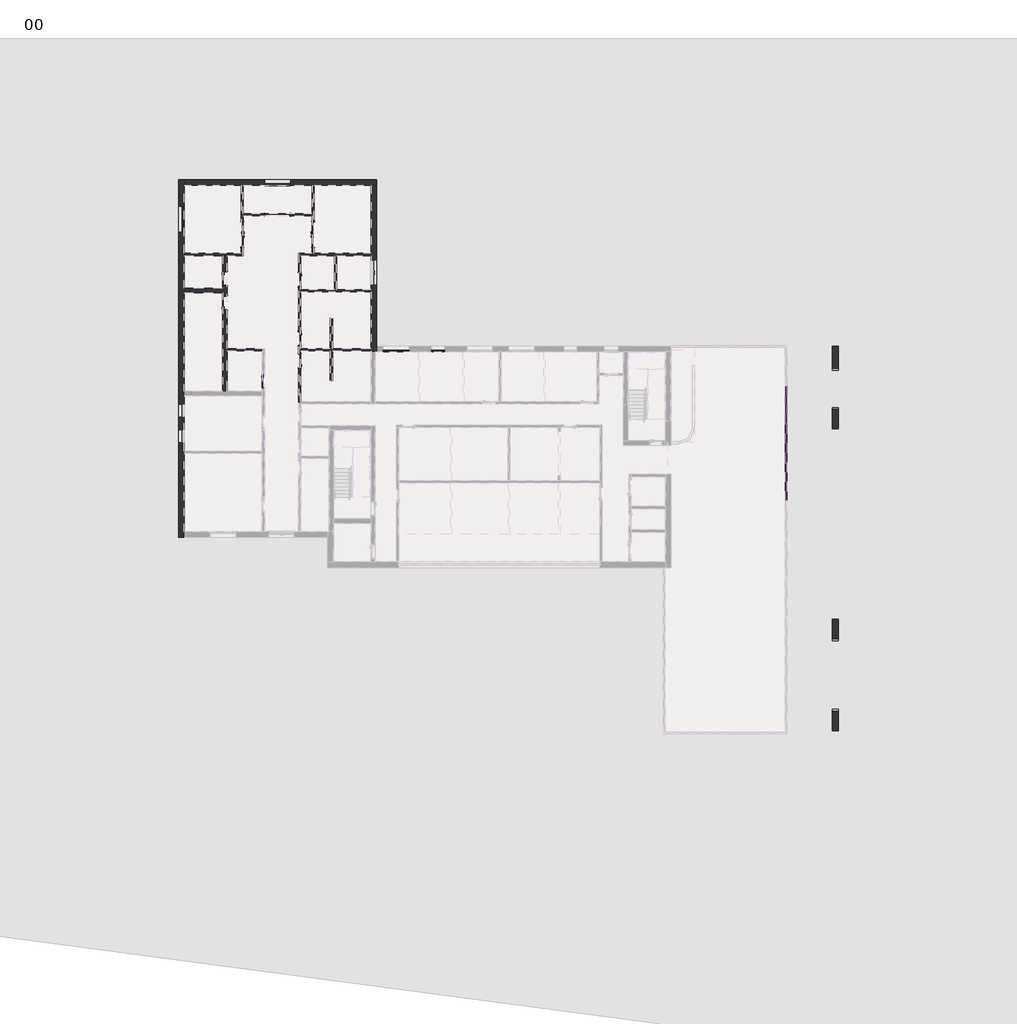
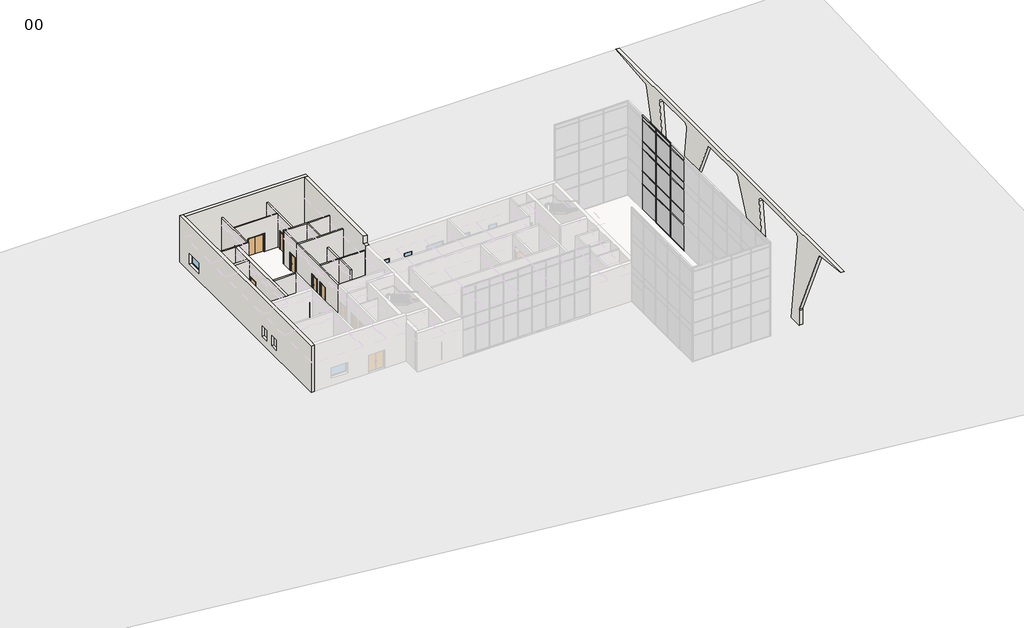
# One storey, part 6 of 11: 28 members, 19 walls, 18 plates, 10 doors, 3 windows.
"""IFC4 building model written with IfcOpenShell, lengths in millimetres."""

from ifc_helpers import new_model, si_unit, point, frame, frame_2d, origin, origin_with_axes, place, context, project, spatial, polyline, circle_curve, trimmed, segment, composite_curve, outline, extrude, faceted_brep, transform, mapped, element, save
from components import doors_concept_extdbl_1810x2110mm_68805f83, doors_concept_intdbl_1810x2110mm_1c066db9, doors_intdbl_3_1810x2110mm_64ebe9ef, doors_intdbl_3_1810x2110mm_1437e5d7, doors_intsgl_1_1010x2110mm_7920e6b8, doors_intsgl_1_1010x2110mm_12a6edaf, doors_intsgl_1_1010x2110mm_5517da8e, doors_intsgl_1_1010x2110mm_5eebe40c, rectangular_mullion_curtainwallmullion_rectangular_generic_8ae0e668, rectangular_mullion_curtainwallmullion_rectangular_generic_08fbcc14, rectangular_mullion_curtainwallmullion_rectangular_generic_5675a122, rectangular_mullion_curtainwallmullion_rectangular_generic_12ad56c0, rectangular_mullion_curtainwallmullion_rectangular_generic_bd817207, rectangular_mullion_curtainwallmullion_rectangular_generic_654ac675, rectangular_mullion_curtainwallmullion_rectangular_generic_c0600e94, rectangular_mullion_curtainwallmullion_rectangular_generic_c640f651, rectangular_mullion_curtainwallmullion_rectangular_generic_b2d53351, system_panel_curtainpanel_glazed_34fb785a, system_panel_curtainpanel_glazed_62d472f1, system_panel_curtainpanel_glazed_9c2ad216, system_panel_curtainpanel_solid_fc584997, system_panel_curtainpanel_solid_60141125, system_panel_curtainpanel_solid_5de49f81, windows_concept_plain_sgl_1810x1210mm_7f7241d7, windows_concept_plain_sgl_910x1210mm_ef0b7ad2

model = new_model("IFC4")

# Units and contexts
model_context = context("Model", 3, world=origin())
ifc_project = project(units=[si_unit("LENGTHUNIT", "METRE", prefix="MILLI")], contexts=[model_context])

# Site, building, storey
site = spatial("IfcSite", under=ifc_project)
building = spatial("IfcBuilding", under=site)
storey = spatial("IfcBuildingStorey", under=building, Name="00", Elevation=0.0)

# Doors
placement = place(None, origin())
doors_concept_extdbl_1810x2110mm_shape = doors_concept_extdbl_1810x2110mm_68805f83(model_context)
element("IfcDoor", 1, ObjectType="Doors_Concept_ExtDbl : 1810x2110mm", at=placement, inside=storey, context=model_context, shape_type="MappedRepresentation", body=[
    mapped(doors_concept_extdbl_1810x2110mm_shape, transform((418436.3206883, -369614.0026386, 0.0), x_axis=(-1.0, 0.0, 0.0), y_axis=(0.0, -1.0, 0.0), z_axis=(0.0, 0.0, 1.0))),
])
doors_concept_intdbl_1810x2110mm_shape = doors_concept_intdbl_1810x2110mm_1c066db9(model_context)
element("IfcDoor", 2, ObjectType="Doors_Concept_IntDbl : 1810x2110mm", at=placement, inside=storey, context=model_context, shape_type="MappedRepresentation", body=[
    mapped(doors_concept_intdbl_1810x2110mm_shape, transform((418436.3206883, -371890.0026386, 0.0), x_axis=(-1.0, 0.0, 0.0), y_axis=(0.0, -1.0, 0.0), z_axis=(0.0, 0.0, 1.0))),
])
doors_intdbl_3_1810x2110mm_shape = doors_intdbl_3_1810x2110mm_64ebe9ef(model_context)
doors_intdbl_3_1810x2110mm_2_shape = doors_intdbl_3_1810x2110mm_1437e5d7(model_context)
element("IfcDoor", 3, ObjectType="Doors_IntDbl_3 : 1810x2110mm", at=placement, inside=storey, context=model_context, shape_type="MappedRepresentation", body=[
    mapped(doors_intdbl_3_1810x2110mm_shape, transform((420937.3206883, -373289.5026386, 0.0), x_axis=(0.0, 1.0, 0.0), y_axis=(-1.0, 0.0, 0.0), z_axis=(0.0, 0.0, 1.0))),
    mapped(doors_intdbl_3_1810x2110mm_2_shape, transform((420937.3206883, -373289.5026386, 0.0), x_axis=(0.0, 1.0, 0.0), y_axis=(-1.0, 0.0, 0.0), z_axis=(0.0, 0.0, 1.0))),
])
element("IfcDoor", 4, ObjectType="Doors_IntDbl_3 : 1810x2110mm", at=placement, inside=storey, context=model_context, shape_type="MappedRepresentation", body=[
    mapped(doors_intdbl_3_1810x2110mm_shape, transform((415935.3206883, -373289.5026386, 0.0), x_axis=(0.0, -1.0, 0.0), y_axis=(1.0, 0.0, 0.0), z_axis=(0.0, 0.0, 1.0))),
    mapped(doors_intdbl_3_1810x2110mm_2_shape, transform((415935.3206883, -373289.5026386, 0.0), x_axis=(0.0, -1.0, 0.0), y_axis=(1.0, 0.0, 0.0), z_axis=(0.0, 0.0, 1.0))),
])
doors_intsgl_1_1010x2110mm_shape = doors_intsgl_1_1010x2110mm_7920e6b8(model_context)
element("IfcDoor", 5, ObjectType="Doors_IntSgl_1 : 1010x2110mm", at=placement, inside=storey, context=model_context, shape_type="MappedRepresentation", body=[
    mapped(doors_intsgl_1_1010x2110mm_shape, transform((417435.3206883, -383609.0026386, 0.0), x_axis=(0.0, -1.0, 0.0), y_axis=(1.0, 0.0, 0.0), z_axis=(0.0, 0.0, 1.0))),
])
element("IfcDoor", 6, ObjectType="Doors_IntSgl_1 : 1010x2110mm", at=placement, inside=storey, context=model_context, shape_type="MappedRepresentation", body=[
    mapped(doors_intsgl_1_1010x2110mm_shape, transform((419987.3206883, -382175.0026386, 0.0), x_axis=(0.0, 1.0, 0.0), y_axis=(-1.0, 0.0, 0.0), z_axis=(0.0, 0.0, 1.0))),
])
doors_intsgl_1_1010x2110mm_2_shape = doors_intsgl_1_1010x2110mm_12a6edaf(model_context)
element("IfcDoor", 7, ObjectType="Doors_IntSgl_1 : 1010x2110mm", at=placement, inside=storey, context=model_context, shape_type="MappedRepresentation", body=[
    mapped(doors_intsgl_1_1010x2110mm_2_shape, transform((419987.3206883, -380615.0026386, 0.0), x_axis=(0.0, -1.0, 0.0), y_axis=(1.0, 0.0, 0.0), z_axis=(0.0, 0.0, 1.0))),
])
element("IfcDoor", 8, ObjectType="Doors_IntSgl_1 : 1010x2110mm", at=placement, inside=storey, context=model_context, shape_type="MappedRepresentation", body=[
    mapped(doors_intsgl_1_1010x2110mm_2_shape, transform((419987.3206883, -376459.0026386, 0.0), x_axis=(0.0, -1.0, 0.0), y_axis=(1.0, 0.0, 0.0), z_axis=(0.0, 0.0, 1.0))),
])
doors_intsgl_1_1010x2110mm_3_shape = doors_intsgl_1_1010x2110mm_5517da8e(model_context)
element("IfcDoor", 9, ObjectType="Doors_IntSgl_1 : 1010x2110mm", at=placement, inside=storey, context=model_context, shape_type="MappedRepresentation", body=[
    mapped(doors_intsgl_1_1010x2110mm_3_shape, transform((414735.3206883, -378099.0026386, 0.0), x_axis=(0.0, 1.0, 0.0), y_axis=(-1.0, 0.0, 0.0), z_axis=(0.0, 0.0, 1.0))),
])
doors_intsgl_1_1010x2110mm_4_shape = doors_intsgl_1_1010x2110mm_5eebe40c(model_context)
element("IfcDoor", 10, ObjectType="Doors_IntSgl_1 : 1010x2110mm", at=placement, inside=storey, context=model_context, shape_type="MappedRepresentation", body=[
    mapped(doors_intsgl_1_1010x2110mm_4_shape, transform((414735.3206883, -376379.0026386, 0.0), x_axis=(0.0, -1.0, 0.0), y_axis=(1.0, 0.0, 0.0), z_axis=(0.0, 0.0, 1.0))),
])

# Members
rectangular_mullion_curtainwallmullion_rectangular_generic_shape = rectangular_mullion_curtainwallmullion_rectangular_generic_8ae0e668(model_context)
element("IfcMember", 11, ObjectType="Rectangular Mullion : CurtainWallMullion_Rectangular_Generic", at=placement, inside=storey, context=model_context, shape_type="MappedRepresentation", body=[
    mapped(rectangular_mullion_curtainwallmullion_rectangular_generic_shape, transform((454246.3206883, -386624.2026388, 10486.7), x_axis=(0.0, -1.0, 0.0), y_axis=(-1.0, 0.0, 0.0), z_axis=(0.0, 0.0, -1.0))),
])
element("IfcMember", 12, ObjectType="Rectangular Mullion : CurtainWallMullion_Rectangular_Generic", at=placement, inside=storey, context=model_context, shape_type="MappedRepresentation", body=[
    mapped(rectangular_mullion_curtainwallmullion_rectangular_generic_shape, transform((454246.3206883, -389338.8026387, 10486.7), x_axis=(0.0, -1.0, 0.0), y_axis=(-1.0, 0.0, 0.0), z_axis=(0.0, 0.0, -1.0))),
])
rectangular_mullion_curtainwallmullion_rectangular_generic_2_shape = rectangular_mullion_curtainwallmullion_rectangular_generic_08fbcc14(model_context)
element("IfcMember", 13, ObjectType="Rectangular Mullion : CurtainWallMullion_Rectangular_Generic", at=placement, inside=storey, context=model_context, shape_type="MappedRepresentation", body=[
    mapped(rectangular_mullion_curtainwallmullion_rectangular_generic_2_shape, transform((454246.3206883, -386624.2026388, 8000.0), x_axis=(0.0, -1.0, 0.0), y_axis=(-1.0, 0.0, 0.0), z_axis=(0.0, 0.0, -1.0))),
])
element("IfcMember", 14, ObjectType="Rectangular Mullion : CurtainWallMullion_Rectangular_Generic", at=placement, inside=storey, context=model_context, shape_type="MappedRepresentation", body=[
    mapped(rectangular_mullion_curtainwallmullion_rectangular_generic_2_shape, transform((454246.3206883, -389338.8026387, 8000.0), x_axis=(0.0, -1.0, 0.0), y_axis=(-1.0, 0.0, 0.0), z_axis=(0.0, 0.0, -1.0))),
])
rectangular_mullion_curtainwallmullion_rectangular_generic_3_shape = rectangular_mullion_curtainwallmullion_rectangular_generic_5675a122(model_context)
element("IfcMember", 15, ObjectType="Rectangular Mullion : CurtainWallMullion_Rectangular_Generic", at=placement, inside=storey, context=model_context, shape_type="MappedRepresentation", body=[
    mapped(rectangular_mullion_curtainwallmullion_rectangular_generic_3_shape, transform((454246.3206883, -386624.2026388, 50.0), x_axis=(0.0, -1.0, 0.0), y_axis=(-1.0, 0.0, 0.0), z_axis=(0.0, 0.0, -1.0))),
])
element("IfcMember", 16, ObjectType="Rectangular Mullion : CurtainWallMullion_Rectangular_Generic", at=placement, inside=storey, context=model_context, shape_type="MappedRepresentation", body=[
    mapped(rectangular_mullion_curtainwallmullion_rectangular_generic_3_shape, transform((454246.3206883, -389338.8026387, 50.0), x_axis=(0.0, -1.0, 0.0), y_axis=(-1.0, 0.0, 0.0), z_axis=(0.0, 0.0, -1.0))),
])
rectangular_mullion_curtainwallmullion_rectangular_generic_4_shape = rectangular_mullion_curtainwallmullion_rectangular_generic_12ad56c0(model_context)
element("IfcMember", 17, ObjectType="Rectangular Mullion : CurtainWallMullion_Rectangular_Generic", at=placement, inside=storey, context=model_context, shape_type="MappedRepresentation", body=[
    mapped(rectangular_mullion_curtainwallmullion_rectangular_generic_4_shape, transform((454246.3206883, -386624.2026388, 11000.0), x_axis=(0.0, 0.0, 1.0), y_axis=(-1.0, 0.0, 0.0), z_axis=(0.0, -1.0, 0.0))),
])
element("IfcMember", 18, ObjectType="Rectangular Mullion : CurtainWallMullion_Rectangular_Generic", at=placement, inside=storey, context=model_context, shape_type="MappedRepresentation", body=[
    mapped(rectangular_mullion_curtainwallmullion_rectangular_generic_4_shape, transform((454246.3206883, -389338.8026387, 11000.0), x_axis=(0.0, 0.0, 1.0), y_axis=(-1.0, 0.0, 0.0), z_axis=(0.0, -1.0, 0.0))),
])
element("IfcMember", 19, ObjectType="Rectangular Mullion : CurtainWallMullion_Rectangular_Generic", at=placement, inside=storey, context=model_context, shape_type="MappedRepresentation", body=[
    mapped(rectangular_mullion_curtainwallmullion_rectangular_generic_4_shape, transform((454246.3206883, -386624.2026388, 0.0), x_axis=(0.0, 0.0, -1.0), y_axis=(-1.0, 0.0, 0.0), z_axis=(0.0, 1.0, 0.0))),
])
element("IfcMember", 20, ObjectType="Rectangular Mullion : CurtainWallMullion_Rectangular_Generic", at=placement, inside=storey, context=model_context, shape_type="MappedRepresentation", body=[
    mapped(rectangular_mullion_curtainwallmullion_rectangular_generic_4_shape, transform((454246.3206883, -389338.8026387, 0.0), x_axis=(0.0, 0.0, -1.0), y_axis=(-1.0, 0.0, 0.0), z_axis=(0.0, 1.0, 0.0))),
])
rectangular_mullion_curtainwallmullion_rectangular_generic_5_shape = rectangular_mullion_curtainwallmullion_rectangular_generic_bd817207(model_context)
element("IfcMember", 21, ObjectType="Rectangular Mullion : CurtainWallMullion_Rectangular_Generic", at=placement, inside=storey, context=model_context, shape_type="MappedRepresentation", body=[
    mapped(rectangular_mullion_curtainwallmullion_rectangular_generic_5_shape, transform((454246.3206883, -386599.2026388, 4500.0), x_axis=(0.0, 0.0, 1.0), y_axis=(-1.0, 0.0, 0.0), z_axis=(0.0, -1.0, 0.0))),
])
element("IfcMember", 22, ObjectType="Rectangular Mullion : CurtainWallMullion_Rectangular_Generic", at=placement, inside=storey, context=model_context, shape_type="MappedRepresentation", body=[
    mapped(rectangular_mullion_curtainwallmullion_rectangular_generic_5_shape, transform((454246.3206883, -389313.8026387, 4500.0), x_axis=(0.0, 0.0, 1.0), y_axis=(-1.0, 0.0, 0.0), z_axis=(0.0, -1.0, 0.0))),
])
element("IfcMember", 23, ObjectType="Rectangular Mullion : CurtainWallMullion_Rectangular_Generic", at=placement, inside=storey, context=model_context, shape_type="MappedRepresentation", body=[
    mapped(rectangular_mullion_curtainwallmullion_rectangular_generic_5_shape, transform((454246.3206883, -386599.2026388, 7100.0), x_axis=(0.0, 0.0, 1.0), y_axis=(-1.0, 0.0, 0.0), z_axis=(0.0, -1.0, 0.0))),
])
element("IfcMember", 24, ObjectType="Rectangular Mullion : CurtainWallMullion_Rectangular_Generic", at=placement, inside=storey, context=model_context, shape_type="MappedRepresentation", body=[
    mapped(rectangular_mullion_curtainwallmullion_rectangular_generic_5_shape, transform((454246.3206883, -389313.8026387, 7100.0), x_axis=(0.0, 0.0, 1.0), y_axis=(-1.0, 0.0, 0.0), z_axis=(0.0, -1.0, 0.0))),
])
element("IfcMember", 25, ObjectType="Rectangular Mullion : CurtainWallMullion_Rectangular_Generic", at=placement, inside=storey, context=model_context, shape_type="MappedRepresentation", body=[
    mapped(rectangular_mullion_curtainwallmullion_rectangular_generic_5_shape, transform((454246.3206883, -386599.2026388, 10486.7), x_axis=(0.0, 0.0, 1.0), y_axis=(-1.0, 0.0, 0.0), z_axis=(0.0, -1.0, 0.0))),
])
element("IfcMember", 26, ObjectType="Rectangular Mullion : CurtainWallMullion_Rectangular_Generic", at=placement, inside=storey, context=model_context, shape_type="MappedRepresentation", body=[
    mapped(rectangular_mullion_curtainwallmullion_rectangular_generic_5_shape, transform((454246.3206883, -389313.8026387, 10486.7), x_axis=(0.0, 0.0, 1.0), y_axis=(-1.0, 0.0, 0.0), z_axis=(0.0, -1.0, 0.0))),
])
element("IfcMember", 27, ObjectType="Rectangular Mullion : CurtainWallMullion_Rectangular_Generic", at=placement, inside=storey, context=model_context, shape_type="MappedRepresentation", body=[
    mapped(rectangular_mullion_curtainwallmullion_rectangular_generic_5_shape, transform((454246.3206883, -386599.2026388, 8000.0), x_axis=(0.0, 0.0, 1.0), y_axis=(-1.0, 0.0, 0.0), z_axis=(0.0, -1.0, 0.0))),
])
element("IfcMember", 28, ObjectType="Rectangular Mullion : CurtainWallMullion_Rectangular_Generic", at=placement, inside=storey, context=model_context, shape_type="MappedRepresentation", body=[
    mapped(rectangular_mullion_curtainwallmullion_rectangular_generic_5_shape, transform((454246.3206883, -389313.8026387, 8000.0), x_axis=(0.0, 0.0, 1.0), y_axis=(-1.0, 0.0, 0.0), z_axis=(0.0, -1.0, 0.0))),
])
element("IfcMember", 29, ObjectType="Rectangular Mullion : CurtainWallMullion_Rectangular_Generic", at=placement, inside=storey, context=model_context, shape_type="MappedRepresentation", body=[
    mapped(rectangular_mullion_curtainwallmullion_rectangular_generic_5_shape, transform((454246.3206883, -386599.2026388, 3000.0), x_axis=(0.0, 0.0, 1.0), y_axis=(-1.0, 0.0, 0.0), z_axis=(0.0, -1.0, 0.0))),
])
element("IfcMember", 30, ObjectType="Rectangular Mullion : CurtainWallMullion_Rectangular_Generic", at=placement, inside=storey, context=model_context, shape_type="MappedRepresentation", body=[
    mapped(rectangular_mullion_curtainwallmullion_rectangular_generic_5_shape, transform((454246.3206883, -389313.8026387, 3000.0), x_axis=(0.0, 0.0, 1.0), y_axis=(-1.0, 0.0, 0.0), z_axis=(0.0, -1.0, 0.0))),
])
rectangular_mullion_curtainwallmullion_rectangular_generic_6_shape = rectangular_mullion_curtainwallmullion_rectangular_generic_654ac675(model_context)
element("IfcMember", 31, ObjectType="Rectangular Mullion : CurtainWallMullion_Rectangular_Generic", at=placement, inside=storey, context=model_context, shape_type="MappedRepresentation", body=[
    mapped(rectangular_mullion_curtainwallmullion_rectangular_generic_6_shape, transform((454246.3206883, -386624.2026388, 4500.0), x_axis=(0.0, -1.0, 0.0), y_axis=(-1.0, 0.0, 0.0), z_axis=(0.0, 0.0, -1.0))),
])
element("IfcMember", 32, ObjectType="Rectangular Mullion : CurtainWallMullion_Rectangular_Generic", at=placement, inside=storey, context=model_context, shape_type="MappedRepresentation", body=[
    mapped(rectangular_mullion_curtainwallmullion_rectangular_generic_6_shape, transform((454246.3206883, -389338.8026387, 4500.0), x_axis=(0.0, -1.0, 0.0), y_axis=(-1.0, 0.0, 0.0), z_axis=(0.0, 0.0, -1.0))),
])
rectangular_mullion_curtainwallmullion_rectangular_generic_7_shape = rectangular_mullion_curtainwallmullion_rectangular_generic_c0600e94(model_context)
element("IfcMember", 33, ObjectType="Rectangular Mullion : CurtainWallMullion_Rectangular_Generic", at=placement, inside=storey, context=model_context, shape_type="MappedRepresentation", body=[
    mapped(rectangular_mullion_curtainwallmullion_rectangular_generic_7_shape, transform((454246.3206883, -386624.2026388, 3000.0), x_axis=(0.0, -1.0, 0.0), y_axis=(-1.0, 0.0, 0.0), z_axis=(0.0, 0.0, -1.0))),
])
element("IfcMember", 34, ObjectType="Rectangular Mullion : CurtainWallMullion_Rectangular_Generic", at=placement, inside=storey, context=model_context, shape_type="MappedRepresentation", body=[
    mapped(rectangular_mullion_curtainwallmullion_rectangular_generic_7_shape, transform((454246.3206883, -389338.8026387, 3000.0), x_axis=(0.0, -1.0, 0.0), y_axis=(-1.0, 0.0, 0.0), z_axis=(0.0, 0.0, -1.0))),
])
rectangular_mullion_curtainwallmullion_rectangular_generic_8_shape = rectangular_mullion_curtainwallmullion_rectangular_generic_c640f651(model_context)
element("IfcMember", 35, ObjectType="Rectangular Mullion : CurtainWallMullion_Rectangular_Generic", at=placement, inside=storey, context=model_context, shape_type="MappedRepresentation", body=[
    mapped(rectangular_mullion_curtainwallmullion_rectangular_generic_8_shape, transform((454246.3206883, -386624.2026388, 7100.0), x_axis=(0.0, -1.0, 0.0), y_axis=(-1.0, 0.0, 0.0), z_axis=(0.0, 0.0, -1.0))),
])
element("IfcMember", 36, ObjectType="Rectangular Mullion : CurtainWallMullion_Rectangular_Generic", at=placement, inside=storey, context=model_context, shape_type="MappedRepresentation", body=[
    mapped(rectangular_mullion_curtainwallmullion_rectangular_generic_8_shape, transform((454246.3206883, -389338.8026387, 7100.0), x_axis=(0.0, -1.0, 0.0), y_axis=(-1.0, 0.0, 0.0), z_axis=(0.0, 0.0, -1.0))),
])
rectangular_mullion_curtainwallmullion_rectangular_generic_9_shape = rectangular_mullion_curtainwallmullion_rectangular_generic_b2d53351(model_context)
element("IfcMember", 37, ObjectType="Rectangular Mullion : CurtainWallMullion_Rectangular_Generic", at=placement, inside=storey, context=model_context, shape_type="MappedRepresentation", body=[
    mapped(rectangular_mullion_curtainwallmullion_rectangular_generic_9_shape, transform((454246.3206883, -386624.2026388, 2425.0), x_axis=(0.0, -1.0, 0.0), y_axis=(-1.0, 0.0, 0.0), z_axis=(0.0, 0.0, -1.0))),
])
element("IfcMember", 38, ObjectType="Rectangular Mullion : CurtainWallMullion_Rectangular_Generic", at=placement, inside=storey, context=model_context, shape_type="MappedRepresentation", body=[
    mapped(rectangular_mullion_curtainwallmullion_rectangular_generic_9_shape, transform((454246.3206883, -389338.8026387, 2425.0), x_axis=(0.0, -1.0, 0.0), y_axis=(-1.0, 0.0, 0.0), z_axis=(0.0, 0.0, -1.0))),
])

# Plates
system_panel_curtainpanel_glazed_shape = system_panel_curtainpanel_glazed_34fb785a(model_context)
element("IfcPlate", 39, ObjectType="System Panel : CurtainPanel_Glazed", at=placement, inside=storey, context=model_context, shape_type="MappedRepresentation", body=[
    mapped(system_panel_curtainpanel_glazed_shape, transform((454246.3206883, -385266.9026388, 8025.0), x_axis=(0.0, -1.0, 0.0), y_axis=(1.0, 0.0, 0.0), z_axis=(0.0, 0.0, 1.0))),
])
element("IfcPlate", 40, ObjectType="System Panel : CurtainPanel_Glazed", at=placement, inside=storey, context=model_context, shape_type="MappedRepresentation", body=[
    mapped(system_panel_curtainpanel_glazed_shape, transform((454246.3206883, -387981.5026388, 8025.0), x_axis=(0.0, -1.0, 0.0), y_axis=(1.0, 0.0, 0.0), z_axis=(0.0, 0.0, 1.0))),
])
element("IfcPlate", 41, ObjectType="System Panel : CurtainPanel_Glazed", at=placement, inside=storey, context=model_context, shape_type="MappedRepresentation", body=[
    mapped(system_panel_curtainpanel_glazed_shape, transform((454246.3206883, -390696.1026387, 8025.0), x_axis=(0.0, -1.0, 0.0), y_axis=(1.0, 0.0, 0.0), z_axis=(0.0, 0.0, 1.0))),
])
system_panel_curtainpanel_glazed_2_shape = system_panel_curtainpanel_glazed_62d472f1(model_context)
element("IfcPlate", 42, ObjectType="System Panel : CurtainPanel_Glazed", at=placement, inside=storey, context=model_context, shape_type="MappedRepresentation", body=[
    mapped(system_panel_curtainpanel_glazed_2_shape, transform((454246.3206883, -385266.9026388, 50.0), x_axis=(0.0, -1.0, 0.0), y_axis=(1.0, 0.0, 0.0), z_axis=(0.0, 0.0, 1.0))),
])
element("IfcPlate", 43, ObjectType="System Panel : CurtainPanel_Glazed", at=placement, inside=storey, context=model_context, shape_type="MappedRepresentation", body=[
    mapped(system_panel_curtainpanel_glazed_2_shape, transform((454246.3206883, -387981.5026388, 50.0), x_axis=(0.0, -1.0, 0.0), y_axis=(1.0, 0.0, 0.0), z_axis=(0.0, 0.0, 1.0))),
])
element("IfcPlate", 44, ObjectType="System Panel : CurtainPanel_Glazed", at=placement, inside=storey, context=model_context, shape_type="MappedRepresentation", body=[
    mapped(system_panel_curtainpanel_glazed_2_shape, transform((454246.3206883, -390696.1026387, 50.0), x_axis=(0.0, -1.0, 0.0), y_axis=(1.0, 0.0, 0.0), z_axis=(0.0, 0.0, 1.0))),
])
system_panel_curtainpanel_glazed_3_shape = system_panel_curtainpanel_glazed_9c2ad216(model_context)
element("IfcPlate", 45, ObjectType="System Panel : CurtainPanel_Glazed", at=placement, inside=storey, context=model_context, shape_type="MappedRepresentation", body=[
    mapped(system_panel_curtainpanel_glazed_3_shape, transform((454246.3206883, -385266.9026388, 4525.0), x_axis=(0.0, -1.0, 0.0), y_axis=(1.0, 0.0, 0.0), z_axis=(0.0, 0.0, 1.0))),
])
element("IfcPlate", 46, ObjectType="System Panel : CurtainPanel_Glazed", at=placement, inside=storey, context=model_context, shape_type="MappedRepresentation", body=[
    mapped(system_panel_curtainpanel_glazed_3_shape, transform((454246.3206883, -387981.5026388, 4525.0), x_axis=(0.0, -1.0, 0.0), y_axis=(1.0, 0.0, 0.0), z_axis=(0.0, 0.0, 1.0))),
])
element("IfcPlate", 47, ObjectType="System Panel : CurtainPanel_Glazed", at=placement, inside=storey, context=model_context, shape_type="MappedRepresentation", body=[
    mapped(system_panel_curtainpanel_glazed_3_shape, transform((454246.3206883, -390696.1026387, 4525.0), x_axis=(0.0, -1.0, 0.0), y_axis=(1.0, 0.0, 0.0), z_axis=(0.0, 0.0, 1.0))),
])
system_panel_curtainpanel_solid_shape = system_panel_curtainpanel_solid_fc584997(model_context)
element("IfcPlate", 48, ObjectType="System Panel : CurtainPanel_Solid", at=placement, inside=storey, context=model_context, shape_type="MappedRepresentation", body=[
    mapped(system_panel_curtainpanel_solid_shape, transform((454246.3206883, -385266.9026388, 10511.7), x_axis=(0.0, -1.0, 0.0), y_axis=(1.0, 0.0, 0.0), z_axis=(0.0, 0.0, 1.0))),
])
element("IfcPlate", 49, ObjectType="System Panel : CurtainPanel_Solid", at=placement, inside=storey, context=model_context, shape_type="MappedRepresentation", body=[
    mapped(system_panel_curtainpanel_solid_shape, transform((454246.3206883, -387981.5026388, 10511.7), x_axis=(0.0, -1.0, 0.0), y_axis=(1.0, 0.0, 0.0), z_axis=(0.0, 0.0, 1.0))),
])
element("IfcPlate", 50, ObjectType="System Panel : CurtainPanel_Solid", at=placement, inside=storey, context=model_context, shape_type="MappedRepresentation", body=[
    mapped(system_panel_curtainpanel_solid_shape, transform((454246.3206883, -390696.1026387, 10511.7), x_axis=(0.0, -1.0, 0.0), y_axis=(1.0, 0.0, 0.0), z_axis=(0.0, 0.0, 1.0))),
])
system_panel_curtainpanel_solid_2_shape = system_panel_curtainpanel_solid_60141125(model_context)
element("IfcPlate", 51, ObjectType="System Panel : CurtainPanel_Solid", at=placement, inside=storey, context=model_context, shape_type="MappedRepresentation", body=[
    mapped(system_panel_curtainpanel_solid_2_shape, transform((454246.3206883, -385266.9026388, 3025.0), x_axis=(0.0, -1.0, 0.0), y_axis=(1.0, 0.0, 0.0), z_axis=(0.0, 0.0, 1.0))),
])
element("IfcPlate", 52, ObjectType="System Panel : CurtainPanel_Solid", at=placement, inside=storey, context=model_context, shape_type="MappedRepresentation", body=[
    mapped(system_panel_curtainpanel_solid_2_shape, transform((454246.3206883, -387981.5026388, 3025.0), x_axis=(0.0, -1.0, 0.0), y_axis=(1.0, 0.0, 0.0), z_axis=(0.0, 0.0, 1.0))),
])
element("IfcPlate", 53, ObjectType="System Panel : CurtainPanel_Solid", at=placement, inside=storey, context=model_context, shape_type="MappedRepresentation", body=[
    mapped(system_panel_curtainpanel_solid_2_shape, transform((454246.3206883, -390696.1026387, 3025.0), x_axis=(0.0, -1.0, 0.0), y_axis=(1.0, 0.0, 0.0), z_axis=(0.0, 0.0, 1.0))),
])
system_panel_curtainpanel_solid_3_shape = system_panel_curtainpanel_solid_5de49f81(model_context)
element("IfcPlate", 54, ObjectType="System Panel : CurtainPanel_Solid", at=placement, inside=storey, context=model_context, shape_type="MappedRepresentation", body=[
    mapped(system_panel_curtainpanel_solid_3_shape, transform((454246.3206883, -385266.9026388, 7125.0), x_axis=(0.0, -1.0, 0.0), y_axis=(1.0, 0.0, 0.0), z_axis=(0.0, 0.0, 1.0))),
])
element("IfcPlate", 55, ObjectType="System Panel : CurtainPanel_Solid", at=placement, inside=storey, context=model_context, shape_type="MappedRepresentation", body=[
    mapped(system_panel_curtainpanel_solid_3_shape, transform((454246.3206883, -387981.5026388, 7125.0), x_axis=(0.0, -1.0, 0.0), y_axis=(1.0, 0.0, 0.0), z_axis=(0.0, 0.0, 1.0))),
])
element("IfcPlate", 56, ObjectType="System Panel : CurtainPanel_Solid", at=placement, inside=storey, context=model_context, shape_type="MappedRepresentation", body=[
    mapped(system_panel_curtainpanel_solid_3_shape, transform((454246.3206883, -390696.1026387, 7125.0), x_axis=(0.0, -1.0, 0.0), y_axis=(1.0, 0.0, 0.0), z_axis=(0.0, 0.0, 1.0))),
])

# Walls
element("IfcWall", 57, ObjectType="Wall_Exterior_WSUK", at=placement, inside=storey, context=model_context, shape_type="Brep", body=[
    faceted_brep([(411860.3206883, -394596.0026386, -1000.0), (411860.3206883, -394194.0026386, -1000.0), (411860.3206883, -369815.0026386, -1000.0), (411860.3206883, -369413.0026386, -1000.0), (411860.3206883, -369413.0026386, 5400.0), (411860.3206883, -369815.0026386, 5400.0), (411860.3206883, -394194.0026386, 5400.0), (411860.3206883, -394596.0026386, 5400.0), (411860.3206883, -371309.5026386, 2110.0), (411860.3206883, -371309.5026386, 900.0), (411860.3206883, -373119.5026386, 900.0), (411860.3206883, -373119.5026386, 2110.0), (411860.3206883, -385224.0026386, 2110.0), (411860.3206883, -385224.0026386, 900.0), (411860.3206883, -386134.0026386, 900.0), (411860.3206883, -386134.0026386, 2110.0), (411860.3206883, -387034.0026386, 2110.0), (411860.3206883, -387034.0026386, 900.0), (411860.3206883, -387944.0026386, 900.0), (411860.3206883, -387944.0026386, 2110.0), (411458.3206883, -394596.0026386, -1000.0), (411458.3206883, -394596.0026386, 5400.0), (411458.3206883, -369413.0026386, 5400.0), (411458.3206883, -369413.0026386, -1000.0), (411458.3206883, -371309.5026386, 2110.0), (411458.3206883, -373119.5026386, 2110.0), (411458.3206883, -373119.5026386, 900.0), (411458.3206883, -371309.5026386, 900.0), (411458.3206883, -385224.0026386, 2110.0), (411458.3206883, -386134.0026386, 2110.0), (411458.3206883, -386134.0026386, 900.0), (411458.3206883, -385224.0026386, 900.0), (411458.3206883, -387034.0026386, 2110.0), (411458.3206883, -387944.0026386, 2110.0), (411458.3206883, -387944.0026386, 900.0), (411458.3206883, -387034.0026386, 900.0)], [[[0, 1, 2, 3, 4, 5, 6, 7], [8, 9, 10, 11], [12, 13, 14, 15], [16, 17, 18, 19]], [[20, 21, 22, 23], [24, 25, 26, 27], [28, 29, 30, 31], [32, 33, 34, 35]], [[3, 2, 1, 0, 20, 23]], [[7, 6, 5, 4, 22, 21]], [[9, 8, 24, 27]], [[10, 9, 27, 26]], [[11, 10, 26, 25]], [[8, 11, 25, 24]], [[13, 12, 28, 31]], [[14, 13, 31, 30]], [[15, 14, 30, 29]], [[12, 15, 29, 28]], [[17, 16, 32, 35]], [[18, 17, 35, 34]], [[19, 18, 34, 33]], [[16, 19, 33, 32]], [[4, 3, 23, 22]], [[0, 7, 21, 20]]]),
])
element("IfcWall", 58, ObjectType="Wall_Exterior_WSUK", at=placement, inside=storey, context=model_context, shape_type="Brep", body=[
    faceted_brep([(411860.3206883, -369815.0026386, -1000.0), (425012.3206883, -369815.0026386, -1000.0), (425414.3206883, -369815.0026386, -1000.0), (425414.3206883, -369815.0026386, 5400.0), (425012.3206883, -369815.0026386, 5400.0), (411860.3206883, -369815.0026386, 5400.0), (419341.3206883, -369815.0026386, 2110.0), (419341.3206883, -369815.0026386, 0.0), (417531.3206883, -369815.0026386, 0.0), (417531.3206883, -369815.0026386, 2110.0), (425414.3206883, -369413.0026386, -1000.0), (411860.3206883, -369413.0026386, -1000.0), (411860.3206883, -369413.0026386, 5400.0), (425414.3206883, -369413.0026386, 5400.0), (419341.3206883, -369413.0026386, 0.0), (419341.3206883, -369413.0026386, 2110.0), (417531.3206883, -369413.0026386, 2110.0), (417531.3206883, -369413.0026386, 0.0)], [[[0, 1, 2, 3, 4, 5], [6, 7, 8, 9]], [[10, 11, 12, 13], [14, 15, 16, 17]], [[2, 1, 0, 11, 10]], [[5, 4, 3, 13, 12]], [[3, 2, 10, 13]], [[6, 15, 14, 7]], [[7, 14, 17, 8]], [[8, 17, 16, 9]], [[15, 6, 9, 16]], [[0, 5, 12, 11]]]),
])
element("IfcWall", 59, ObjectType="Wall_Exterior_WSUK", at=placement, inside=storey, context=model_context, shape_type="Brep", body=[
    faceted_brep([(425012.3206883, -369815.0026386, -1000.0), (425012.3206883, -381550.0026386, -1000.0), (425012.3206883, -381550.0026386, 4500.0), (425012.3206883, -381148.0026386, 4500.0), (425012.3206883, -381148.0026386, 5400.0), (425012.3206883, -369815.0026386, 5400.0), (425012.3206883, -376844.0026386, 0.0), (425012.3206883, -375084.0026386, 0.0), (425012.3206883, -375084.0026386, 2110.0), (425012.3206883, -376844.0026386, 2110.0), (425414.3206883, -381550.0026386, -1000.0), (425414.3206883, -381148.0026386, -1000.0), (425414.3206883, -369815.0026386, -1000.0), (425414.3206883, -369815.0026386, 5400.0), (425414.3206883, -381148.0026386, 5400.0), (425414.3206883, -381148.0026386, 4500.0), (425414.3206883, -381550.0026386, 4500.0), (425414.3206883, -375059.0026386, 2110.0), (425414.3206883, -375059.0026386, 0.0), (425414.3206883, -376869.0026386, 0.0), (425414.3206883, -376869.0026386, 2110.0), (425322.3206883, -381550.0026386, -1000.0), (425114.8206883, -376869.0026386, 2110.0), (425114.8206883, -376869.0026386, 0.0), (425114.8206883, -376844.0026386, 0.0), (425114.8206883, -376844.0026386, 2110.0), (425114.8206883, -375059.0026386, 0.0), (425114.8206883, -375059.0026386, 2110.0), (425114.8206883, -375084.0026386, 2110.0), (425114.8206883, -375084.0026386, 0.0), (425322.3206883, -381550.0026386, 4500.0)], [[[0, 1, 2, 3, 4, 5], [6, 7, 8, 9]], [[10, 11, 12, 13, 14, 15, 16], [17, 18, 19, 20]], [[1, 0, 12, 11, 10, 21]], [[5, 4, 14, 13]], [[0, 5, 13, 12]], [[22, 23, 24, 25]], [[26, 27, 28, 29]], [[27, 26, 18, 17]], [[24, 23, 19, 18, 26, 29, 7, 6]], [[23, 22, 20, 19]], [[22, 25, 9, 8, 28, 27, 17, 20]], [[25, 24, 6, 9]], [[29, 28, 8, 7]], [[3, 2, 30, 16, 15]], [[1, 21, 10, 16, 30, 2]], [[14, 4, 3, 15]]]),
])
element("IfcWall", 60, ObjectType="Wall_Interior_WSUK", at=placement, inside=storey, context=model_context, shape_type="Brep", body=[
    faceted_brep([(420062.3206883, -377314.0026386, 0.0), (425012.3206883, -377314.0026386, 0.0), (425012.3206883, -377314.0026386, 3900.0), (420062.3206883, -377314.0026386, 3900.0), (420062.3206883, -377164.0026386, 0.0), (420062.3206883, -377164.0026386, 3900.0), (422462.3206883, -377164.0026386, 3900.0), (422612.3206883, -377164.0026386, 3900.0), (425012.3206883, -377164.0026386, 3900.0), (425012.3206883, -377164.0026386, 0.0), (422612.3206883, -377164.0026386, 0.0), (422462.3206883, -377164.0026386, 0.0)], [[[0, 1, 2, 3]], [[4, 5, 6, 7, 8, 9, 10, 11]], [[1, 0, 4, 11, 10, 9]], [[3, 2, 8, 7, 6, 5]], [[0, 3, 5, 4]], [[2, 1, 9, 8]]]),
])
element("IfcWall", 61, ObjectType="Wall_Interior_WSUK", at=placement, inside=storey, context=model_context, shape_type="SweptSolid", body=[
    extrude(outline(polyline([(-377164.0026386, 3900.0), (-374764.0026386, 3900.0), (-374764.0026386, 0.0), (-375954.0026386, 0.0), (-375954.0026386, 2110.0), (-376964.0026386, 2110.0), (-376964.0026386, 0.0), (-377164.0026386, 0.0), (-377164.0026386, 3900.0)])), frame((419912.3206883, 0.0, 0.0), z_axis=(1.0, 0.0, 0.0), x_axis=(0.0, 1.0, 0.0)), (0.0, 0.0, 1.0), 150.0),
])
element("IfcWall", 62, ObjectType="Wall_Interior_WSUK", at=placement, inside=storey, context=model_context, shape_type="Brep", body=[
    faceted_brep([(420062.3206883, -377164.0026386, 3900.0), (420062.3206883, -377314.0026386, 3900.0), (420062.3206883, -381320.0026386, 3900.0), (420062.3206883, -381470.0026386, 3900.0), (420062.3206883, -385049.0026386, 3900.0), (420062.3206883, -385124.0026386, 3900.0), (420062.3206883, -385124.0026386, 0.0), (420062.3206883, -385049.0026386, 0.0), (420062.3206883, -382680.0026386, 0.0), (420062.3206883, -382680.0026386, 2110.0), (420062.3206883, -381670.0026386, 2110.0), (420062.3206883, -381670.0026386, 0.0), (420062.3206883, -381470.0026386, 0.0), (420062.3206883, -381320.0026386, 0.0), (420062.3206883, -381120.0026386, 0.0), (420062.3206883, -381120.0026386, 2110.0), (420062.3206883, -380110.0026386, 2110.0), (420062.3206883, -380110.0026386, 0.0), (420062.3206883, -377314.0026386, 0.0), (420062.3206883, -377164.0026386, 0.0), (419912.3206883, -385124.0026386, 3900.0), (419912.3206883, -377164.0026386, 3900.0), (419912.3206883, -377164.0026386, 0.0), (419912.3206883, -380110.0026386, 0.0), (419912.3206883, -380110.0026386, 2110.0), (419912.3206883, -381120.0026386, 2110.0), (419912.3206883, -381120.0026386, 0.0), (419912.3206883, -381670.0026386, 0.0), (419912.3206883, -381670.0026386, 2110.0), (419912.3206883, -382680.0026386, 2110.0), (419912.3206883, -382680.0026386, 0.0), (419912.3206883, -385124.0026386, 0.0)], [[[0, 1, 2, 3, 4, 5, 6, 7, 8, 9, 10, 11, 12, 13, 14, 15, 16, 17, 18, 19]], [[20, 21, 22, 23, 24, 25, 26, 27, 28, 29, 30, 31]], [[6, 31, 30, 8, 7]], [[22, 19, 18, 17, 23]], [[11, 27, 26, 14, 13, 12]], [[5, 4, 3, 2, 1, 0, 21, 20]], [[6, 5, 20, 31]], [[0, 19, 22, 21]], [[10, 28, 27, 11]], [[28, 10, 9, 29]], [[29, 9, 8, 30]], [[25, 15, 14, 26]], [[15, 25, 24, 16]], [[16, 24, 23, 17]]]),
])
element("IfcWall", 63, ObjectType="Wall_Exterior_WSUK 2hr", at=placement, inside=storey, context=model_context, shape_type="Brep", body=[
    faceted_brep([(414890.3206883, -374764.0026386, 3900.0), (414890.3206883, -381320.0026386, 3900.0), (414890.3206883, -381470.0026386, 3900.0), (414890.3206883, -384314.0026386, 3900.0), (414890.3206883, -384314.0026386, 0.0), (414890.3206883, -381470.0026386, 0.0), (414890.3206883, -381320.0026386, 0.0), (414890.3206883, -378604.0026386, 0.0), (414890.3206883, -378604.0026386, 2110.0), (414890.3206883, -377594.0026386, 2110.0), (414890.3206883, -377594.0026386, 0.0), (414890.3206883, -376884.0026386, 0.0), (414890.3206883, -376884.0026386, 2110.0), (414890.3206883, -375874.0026386, 2110.0), (414890.3206883, -375874.0026386, 0.0), (414890.3206883, -374764.0026386, 0.0), (414580.3206883, -384314.0026386, 3900.0), (414580.3206883, -377394.0026386, 3900.0), (414580.3206883, -377084.0026386, 3900.0), (414580.3206883, -374764.0026386, 3900.0), (414580.3206883, -374764.0026386, 0.0), (414580.3206883, -375874.0026386, 0.0), (414580.3206883, -375874.0026386, 2110.0), (414580.3206883, -376884.0026386, 2110.0), (414580.3206883, -376884.0026386, 0.0), (414580.3206883, -377084.0026386, 0.0), (414580.3206883, -377394.0026386, 0.0), (414580.3206883, -377594.0026386, 0.0), (414580.3206883, -377594.0026386, 2110.0), (414580.3206883, -378604.0026386, 2110.0), (414580.3206883, -378604.0026386, 0.0), (414580.3206883, -384314.0026386, 0.0)], [[[0, 1, 2, 3, 4, 5, 6, 7, 8, 9, 10, 11, 12, 13, 14, 15]], [[16, 17, 18, 19, 20, 21, 22, 23, 24, 25, 26, 27, 28, 29, 30, 31]], [[4, 31, 30, 7, 6, 5]], [[20, 15, 14, 21]], [[24, 11, 10, 27, 26, 25]], [[3, 2, 1, 0, 19, 18, 17, 16]], [[4, 3, 16, 31]], [[0, 15, 20, 19]], [[23, 12, 11, 24]], [[12, 23, 22, 13]], [[13, 22, 21, 14]], [[9, 28, 27, 10]], [[28, 9, 8, 29]], [[29, 8, 7, 30]]]),
])
element("IfcWall", 64, ObjectType="Wall_Interior_WSUK", at=placement, inside=storey, context=model_context, shape_type="Brep", body=[
    faceted_brep([(416010.3206883, -374614.0026386, 0.0), (415860.3206883, -374614.0026386, 0.0), (411860.3206883, -374614.0026386, 0.0), (411860.3206883, -374614.0026386, 3900.0), (415860.3206883, -374614.0026386, 3900.0), (416010.3206883, -374614.0026386, 3900.0), (416010.3206883, -374764.0026386, 0.0), (416010.3206883, -374764.0026386, 3900.0), (414890.3206883, -374764.0026386, 3900.0), (414580.3206883, -374764.0026386, 3900.0), (411860.3206883, -374764.0026386, 3900.0), (411860.3206883, -374764.0026386, 0.0), (414580.3206883, -374764.0026386, 0.0), (414890.3206883, -374764.0026386, 0.0)], [[[0, 1, 2, 3, 4, 5]], [[6, 7, 8, 9, 10, 11, 12, 13]], [[2, 1, 0, 6, 13, 12, 11]], [[5, 4, 3, 10, 9, 8, 7]], [[0, 5, 7, 6]], [[3, 2, 11, 10]]]),
])
element("IfcWall", 65, ObjectType="Wall_Interior_WSUK", at=placement, inside=storey, context=model_context, shape_type="Brep", body=[
    faceted_brep([(416010.3206883, -369815.0026386, 3900.0), (416010.3206883, -371815.0026386, 3900.0), (416010.3206883, -371965.0026386, 3900.0), (416010.3206883, -374614.0026386, 3900.0), (416010.3206883, -374614.0026386, 0.0), (416010.3206883, -374194.5026386, 0.0), (416010.3206883, -374194.5026386, 2110.0), (416010.3206883, -372384.5026386, 2110.0), (416010.3206883, -372384.5026386, 0.0), (416010.3206883, -371965.0026386, 0.0), (416010.3206883, -371815.0026386, 0.0), (416010.3206883, -369815.0026386, 0.0), (415860.3206883, -374614.0026386, 3900.0), (415860.3206883, -369815.0026386, 3900.0), (415860.3206883, -369815.0026386, 0.0), (415860.3206883, -372384.5026386, 0.0), (415860.3206883, -372384.5026386, 2110.0), (415860.3206883, -374194.5026386, 2110.0), (415860.3206883, -374194.5026386, 0.0), (415860.3206883, -374614.0026386, 0.0)], [[[0, 1, 2, 3, 4, 5, 6, 7, 8, 9, 10, 11]], [[12, 13, 14, 15, 16, 17, 18, 19]], [[14, 11, 10, 9, 8, 15]], [[4, 19, 18, 5]], [[3, 2, 1, 0, 13, 12]], [[4, 3, 12, 19]], [[0, 11, 14, 13]], [[17, 6, 5, 18]], [[6, 17, 16, 7]], [[7, 16, 15, 8]]]),
])
element("IfcWall", 66, ObjectType="Wall_Exterior_WSUK 2hr", at=placement, inside=storey, context=model_context, shape_type="SweptSolid", body=[
    extrude(outline(polyline([(414580.3206883, -377394.0026386), (411860.3206883, -377394.0026386), (411860.3206883, -377084.0026386), (414580.3206883, -377084.0026386), (414580.3206883, -377394.0026386)])), origin_with_axes(), (0.0, 0.0, 1.0), 3900.0),
])
element("IfcWall", 67, ObjectType="Wall_Interior_WSUK", at=placement, inside=storey, context=model_context, shape_type="Brep", body=[
    faceted_brep([(419912.3206883, -374764.0026386, 0.0), (420062.3206883, -374764.0026386, 0.0), (422462.3206883, -374764.0026386, 0.0), (422612.3206883, -374764.0026386, 0.0), (425012.3206883, -374764.0026386, 0.0), (425012.3206883, -374764.0026386, 3900.0), (422612.3206883, -374764.0026386, 3900.0), (422462.3206883, -374764.0026386, 3900.0), (420062.3206883, -374764.0026386, 3900.0), (419912.3206883, -374764.0026386, 3900.0), (419912.3206883, -374614.0026386, 0.0), (419912.3206883, -374614.0026386, 3900.0), (420862.3206883, -374614.0026386, 3900.0), (421012.3206883, -374614.0026386, 3900.0), (425012.3206883, -374614.0026386, 3900.0), (425012.3206883, -374614.0026386, 0.0), (421012.3206883, -374614.0026386, 0.0), (420862.3206883, -374614.0026386, 0.0)], [[[0, 1, 2, 3, 4, 5, 6, 7, 8, 9]], [[10, 11, 12, 13, 14, 15, 16, 17]], [[4, 3, 2, 1, 0, 10, 17, 16, 15]], [[9, 8, 7, 6, 5, 14, 13, 12, 11]], [[5, 4, 15, 14]], [[0, 9, 11, 10]]]),
])
element("IfcWall", 68, ObjectType="Wall_Interior_WSUK", at=placement, inside=storey, context=model_context, shape_type="SweptSolid", body=[
    extrude(outline(polyline([(422462.3206883, -377164.0026386), (422462.3206883, -374764.0026386), (422612.3206883, -374764.0026386), (422612.3206883, -377164.0026386), (422462.3206883, -377164.0026386)])), origin_with_axes(), (0.0, 0.0, 1.0), 3900.0),
])
element("IfcWall", 69, ObjectType="Wall_Interior_WSUK", at=placement, inside=storey, context=model_context, shape_type="SweptSolid", body=[
    extrude(outline(polyline([(3900.0, 420862.3206883), (3900.0, 416010.3206883), (0.0, 416010.3206883), (0.0, 417531.3206883), (2110.0, 417531.3206883), (2110.0, 419341.3206883), (0.0, 419341.3206883), (0.0, 420862.3206883), (3900.0, 420862.3206883)])), frame((0.0, -371965.0026386, 0.0), z_axis=(0.0, 1.0, 0.0), x_axis=(0.0, 0.0, 1.0)), (0.0, 0.0, 1.0), 150.0),
])
element("IfcWall", 70, ObjectType="Wall_Interior_WSUK", at=placement, inside=storey, context=model_context, shape_type="Brep", body=[
    faceted_brep([(421012.3206883, -369815.0026386, 3900.0), (421012.3206883, -374614.0026386, 3900.0), (421012.3206883, -374614.0026386, 0.0), (421012.3206883, -374194.5026386, 0.0), (421012.3206883, -374194.5026386, 2110.0), (421012.3206883, -372384.5026386, 2110.0), (421012.3206883, -372384.5026386, 0.0), (421012.3206883, -369815.0026386, 0.0), (420862.3206883, -374614.0026386, 3900.0), (420862.3206883, -371965.0026386, 3900.0), (420862.3206883, -371815.0026386, 3900.0), (420862.3206883, -369815.0026386, 3900.0), (420862.3206883, -369815.0026386, 0.0), (420862.3206883, -371815.0026386, 0.0), (420862.3206883, -371965.0026386, 0.0), (420862.3206883, -372384.5026386, 0.0), (420862.3206883, -372384.5026386, 2110.0), (420862.3206883, -374194.5026386, 2110.0), (420862.3206883, -374194.5026386, 0.0), (420862.3206883, -374614.0026386, 0.0)], [[[0, 1, 2, 3, 4, 5, 6, 7]], [[8, 9, 10, 11, 12, 13, 14, 15, 16, 17, 18, 19]], [[12, 7, 6, 15, 14, 13]], [[2, 19, 18, 3]], [[1, 0, 11, 10, 9, 8]], [[0, 7, 12, 11]], [[2, 1, 8, 19]], [[5, 16, 15, 6]], [[16, 5, 4, 17]], [[17, 4, 3, 18]]]),
])
element("IfcWall", 71, ObjectType="Wall_Interior_WSUK", at=placement, inside=storey, context=model_context, shape_type="SweptSolid", body=[
    extrude(outline(polyline([(414890.3206883, -381320.0026386), (417360.3206883, -381320.0026386), (417360.3206883, -381470.0026386), (414890.3206883, -381470.0026386), (414890.3206883, -381320.0026386)])), origin_with_axes(), (0.0, 0.0, 1.0), 3900.0),
])
element("IfcWall", 72, ObjectType="Wall_Interior_WSUK", at=placement, inside=storey, context=model_context, shape_type="Brep", body=[
    faceted_brep([(420062.3206883, -381470.0026386, 0.0), (422146.3206883, -381470.0026386, 0.0), (422296.3206883, -381470.0026386, 0.0), (425012.3206883, -381470.0026386, 0.0), (425012.3206883, -381470.0026386, 3900.0), (422296.3206883, -381470.0026386, 3900.0), (422146.3206883, -381470.0026386, 3900.0), (420062.3206883, -381470.0026386, 3900.0), (420062.3206883, -381320.0026386, 0.0), (420062.3206883, -381320.0026386, 3900.0), (422146.3206883, -381320.0026386, 3900.0), (422296.3206883, -381320.0026386, 3900.0), (425012.3206883, -381320.0026386, 3900.0), (425012.3206883, -381320.0026386, 0.0), (422296.3206883, -381320.0026386, 0.0), (422146.3206883, -381320.0026386, 0.0)], [[[0, 1, 2, 3, 4, 5, 6, 7]], [[8, 9, 10, 11, 12, 13, 14, 15]], [[3, 2, 1, 0, 8, 15, 14, 13]], [[7, 6, 5, 4, 12, 11, 10, 9]], [[0, 7, 9, 8]], [[4, 3, 13, 12]]]),
])
element("IfcWall", 73, ObjectType="Wall_Interior_WSUK", at=placement, inside=storey, context=model_context, shape_type="SweptSolid", body=[
    extrude(outline(polyline([(422146.3206883, -381320.0026386), (422146.3206883, -379195.0026386), (422296.3206883, -379195.0026386), (422296.3206883, -381320.0026386), (422146.3206883, -381320.0026386)])), origin_with_axes(), (0.0, 0.0, 1.0), 3900.0),
])
element("IfcWall", 74, ObjectType="Wall_Interior_WSUK", at=placement, inside=storey, context=model_context, shape_type="SweptSolid", body=[
    extrude(outline(polyline([(422296.3206883, -381470.0026386), (422296.3206883, -383595.0026386), (422146.3206883, -383595.0026386), (422146.3206883, -381470.0026386), (422296.3206883, -381470.0026386)])), origin_with_axes(), (0.0, 0.0, 1.0), 3900.0),
])
element("IfcWall", 75, ObjectType="Wall_Exterior_WSUK", at=placement, inside=storey, context=model_context, shape_type="SweptSolid", body=[
    extrude(outline(composite_curve([segment(polyline([(-373148.0026386, 11000.0), (-378601.3646023, 10475.3)]), True, "CONTINUOUS"), segment(trimmed(circle_curve(frame_2d((-378601.3646023, 9975.3)), 500.0), [point((-378601.3646023, 10475.3))], [point((-379086.5124654, 10096.2609478))], True, "CARTESIAN"), True, "CONTINUOUS"), segment(polyline([(-379086.5124654, 10096.2609478), (-381133.1505017, 1887.6441339)]), True, "CONTINUOUS"), segment(trimmed(circle_curve(frame_2d((-380648.0026386, 1766.6831861)), 500.0), [point((-381133.1505017, 1887.6441339))], [point((-381148.0026386, 1766.6831861))], True, "CARTESIAN"), True, "CONTINUOUS"), segment(polyline([(-381148.0026386, 1766.6831861), (-381148.0026386, 0.0), (-382843.1791511, 0.0), (-381557.225577, 9910.9639926)]), True, "CONTINUOUS"), segment(trimmed(circle_curve(frame_2d((-382053.0691795, 9975.3)), 500.0), [point((-381557.225577, 9910.9639926))], [point((-382053.0691795, 10475.3))], True, "CARTESIAN"), True, "CONTINUOUS"), segment(polyline([(-382053.0691795, 10475.3), (-386235.9360977, 10475.3)]), True, "CONTINUOUS"), segment(trimmed(circle_curve(frame_2d((-386235.9360977, 9975.3)), 500.0), [point((-386235.9360977, 10475.3))], [point((-386731.7797002, 9910.9639926))], True, "CARTESIAN"), True, "CONTINUOUS"), segment(polyline([(-386731.7797002, 9910.9639926), (-385445.8261261, 0.0), (-386970.2026386, 0.0), (-386970.2026386, 1693.295277)]), True, "CONTINUOUS"), segment(trimmed(circle_curve(frame_2d((-387470.2026386, 1693.295277)), 500.0), [point((-386970.2026386, 1693.295277))], [point((-387013.7623639, 1897.4086662))], True, "CARTESIAN"), True, "CONTINUOUS"), segment(polyline([(-387013.7623639, 1897.4086662), (-390717.3532764, 10179.4133892)]), True, "CONTINUOUS"), segment(trimmed(circle_curve(frame_2d((-391173.7935511, 9975.3)), 500.0), [point((-390717.3532764, 10179.4133892))], [point((-391173.7935511, 10475.3))], True, "CARTESIAN"), True, "CONTINUOUS"), segment(polyline([(-391173.7935511, 10475.3), (-396165.2117261, 10475.3)]), True, "CONTINUOUS"), segment(trimmed(circle_curve(frame_2d((-396165.2117261, 9975.3)), 500.0), [point((-396165.2117261, 10475.3))], [point((-396621.6520008, 10179.4133892))], True, "CARTESIAN"), True, "CONTINUOUS"), segment(polyline([(-396621.6520008, 10179.4133892), (-400325.2429133, 1897.4086662)]), True, "CONTINUOUS"), segment(trimmed(circle_curve(frame_2d((-399868.8026386, 1693.295277)), 500.0), [point((-400325.2429133, 1897.4086662))], [point((-400368.8026386, 1693.295277))], True, "CARTESIAN"), True, "CONTINUOUS"), segment(polyline([(-400368.8026386, 1693.295277), (-400368.8026386, 0.0), (-401893.1791511, 0.0), (-400607.225577, 9910.9639926)]), True, "CONTINUOUS"), segment(trimmed(circle_curve(frame_2d((-401103.0691795, 9975.3)), 500.0), [point((-400607.225577, 9910.9639926))], [point((-401103.0691795, 10475.3))], True, "CARTESIAN"), True, "CONTINUOUS"), segment(polyline([(-401103.0691795, 10475.3), (-407482.9360977, 10475.3)]), True, "CONTINUOUS"), segment(trimmed(circle_curve(frame_2d((-407482.9360977, 9975.3)), 500.0), [point((-407482.9360977, 10475.3))], [point((-407978.7797002, 9910.9639926))], True, "CARTESIAN"), True, "CONTINUOUS"), segment(polyline([(-407978.7797002, 9910.9639926), (-406692.8261261, 0.0), (-408217.2026386, 0.0), (-408217.2026386, 1693.295277)]), True, "CONTINUOUS"), segment(trimmed(circle_curve(frame_2d((-408717.2026386, 1693.295277)), 500.0), [point((-408217.2026386, 1693.295277))], [point((-408260.7623639, 1897.4086662))], True, "CARTESIAN"), True, "CONTINUOUS"), segment(polyline([(-408260.7623639, 1897.4086662), (-412008.6864906, 10278.5517384)]), True, "CONTINUOUS"), segment(trimmed(circle_curve(frame_2d((-412465.1267653, 10074.4383492)), 500.0), [point((-412008.6864906, 10278.5517384))], [point((-412465.1267653, 10574.4383492))], True, "CARTESIAN"), True, "CONTINUOUS"), segment(polyline([(-412465.1267653, 10574.4383492), (-416223.5526386, 11000.0), (-373148.0026386, 11000.0)]), True, "CONTINUOUS")], self_intersect=False)), frame((457524.3206883, 0.0, 0.0), z_axis=(1.0, 0.0, 0.0), x_axis=(0.0, 1.0, 0.0)), (0.0, 0.0, 1.0), 402.0),
])

# Windows
windows_concept_plain_sgl_1810x1210mm_shape = windows_concept_plain_sgl_1810x1210mm_7f7241d7(model_context)
element("IfcWindow", 76, ObjectType="Windows_Concept_Plain_Sgl : 1810x1210mm", at=placement, inside=storey, context=model_context, shape_type="MappedRepresentation", body=[
    mapped(windows_concept_plain_sgl_1810x1210mm_shape, transform((426788.3206883, -381340.5460708, 0.0), x_axis=(-1.0, 0.0, 0.0), y_axis=(0.0, -1.0, 0.0), z_axis=(0.0, 0.0, 1.0))),
])
element("IfcWindow", 77, ObjectType="Windows_Concept_Plain_Sgl : 1810x1210mm", at=placement, inside=storey, context=model_context, shape_type="MappedRepresentation", body=[
    mapped(windows_concept_plain_sgl_1810x1210mm_shape, transform((411650.8641205, -372214.5026386, 0.0), x_axis=(0.0, -1.0, 0.0), y_axis=(1.0, 0.0, 0.0), z_axis=(0.0, 0.0, 1.0))),
])
windows_concept_plain_sgl_910x1210mm_shape = windows_concept_plain_sgl_910x1210mm_ef0b7ad2(model_context)
element("IfcWindow", 78, ObjectType="Windows_Concept_Plain_Sgl : 910x1210mm", at=placement, inside=storey, context=model_context, shape_type="MappedRepresentation", body=[
    mapped(windows_concept_plain_sgl_910x1210mm_shape, transform((429730.3206883, -381340.5460708, 0.0), x_axis=(-1.0, 0.0, 0.0), y_axis=(0.0, -1.0, 0.0), z_axis=(0.0, 0.0, 1.0))),
])

save(model, "model.ifc")
